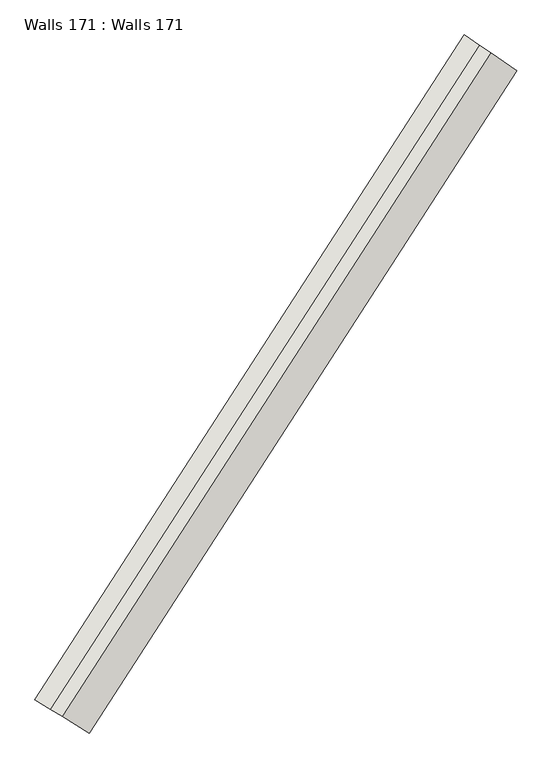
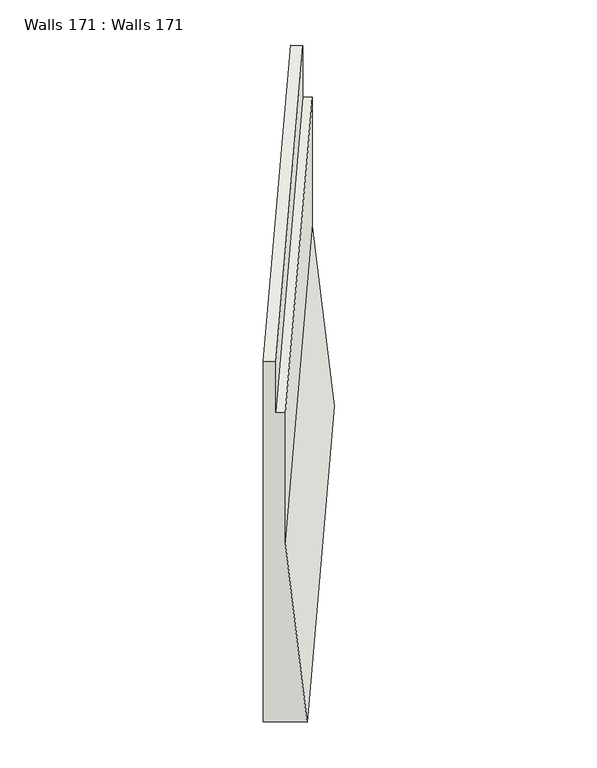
"""IFC4 building model written with IfcOpenShell, lengths in millimetres: wall geometry, Walls 171 : Walls 171."""

from ifc_helpers import new_model, si_unit, frame, origin, place, context, project, spatial, source, transform, mapped, element, save
from ifc_brep_helpers import plane_surface, spline_curve, spline_surface, advanced_brep


def walls_171_walls_171_41cf312e(model_context):
    return source(origin(), model_context, "Body", "AdvancedBrep", [
        advanced_brep(
        [(212384.317628, 110743.2238994, 642700.0), (212085.7919016, 110925.932385, 646200.0), (212085.7919016, 110925.932385, 648740.0), (211957.8523046, 111004.2360216, 648740.0), (211957.8523046, 111004.2360216, 649740.0), (211787.2661753, 111108.6408705, 649740.0), (211787.2661753, 111108.6408705, 642700.0), (217085.1020384, 118022.6779378, 642810.0), (216506.4027836, 118416.5144171, 642810.0), (216506.4027836, 118416.5144171, 649820.0), (216671.7454278, 118303.9897088, 649820.0), (216671.7454278, 118303.9897088, 648820.0), (216795.752411, 118219.5961775, 648820.0), (216795.752411, 118219.5961775, 646310.0)],
        [
            (0, 1),
            (1, 2),
            (2, 3),
            (3, 4),
            (4, 5),
            (5, 6),
            (6, 0),
            (7, 8),
            (8, 9),
            (9, 10),
            (10, 11),
            (11, 12),
            (12, 13),
            (13, 7),
            (11, 3, spline_curve(3, [(216671.7454278, 118303.9897088, 648820.0), (215041.950054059, 115909.185221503, 648793.333333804), (213470.040535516, 113474.986564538, 648766.666666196), (211957.8523046, 111004.2360216, 648740.0)], [4, 4], [0.0, 28.500563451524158])),
            (2, 12, spline_curve(3, [(212085.7919016, 110925.932385, 648740.0), (213596.718574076, 113394.621678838, 648766.666666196), (215167.31671079, 115826.789580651, 648793.333333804), (216795.752411, 118219.5961775, 648820.0)], [4, 4], [0.0, 28.500563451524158])),
            (9, 5, spline_curve(3, [(216506.4027836, 118416.5144171, 649820.0), (214874.794512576, 116019.046076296, 649793.333333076), (213301.136483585, 113582.139745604, 649766.666666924), (211787.2661753, 111108.6408705, 649740.0)], [4, 4], [0.0, 28.528312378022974])),
            (4, 10, spline_curve(3, [(211957.8523046, 111004.2360216, 649740.0), (213470.040535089, 113474.986564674, 649766.666666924), (215041.950054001, 115909.185221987, 649793.333333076), (216671.7454278, 118303.9897088, 649820.0)], [4, 4], [0.0, 28.528312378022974])),
            (8, 6, spline_curve(3, [(216506.4027836, 118416.5144171, 642810.0), (214874.794511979, 116019.046076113, 642773.333333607), (213301.136484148, 113582.139745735, 642736.666666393), (211787.2661753, 111108.6408705, 642700.0)], [4, 4], [0.0, 28.54466384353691])),
            (7, 0, spline_curve(3, [(217085.1020384, 118022.6779378, 642810.0), (215459.838910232, 115634.533085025, 642773.333333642), (213892.300663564, 113207.103612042, 642736.666666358), (212384.317628, 110743.2238994, 642700.0)], [4, 4], [0.0, 28.48974785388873])),
            (13, 1, spline_curve(3, [(216795.752411, 118219.5961775, 646310.0), (215167.316711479, 115826.789580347, 646273.333333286), (213596.718573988, 113394.62167874, 646236.666666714), (212085.7919016, 110925.932385, 646200.0)], [4, 4], [0.0, 28.461999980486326])),
        ],
        [
            plane_surface(frame((212006.5911987, 110974.4060648, 646937.1428571), z_axis=(-0.5220242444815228, -0.8529306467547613, 0.0), x_axis=(0.0, 0.0, 1.0))),
            plane_surface(frame((216718.9861833, 118271.8397921, 647030.0), z_axis=(0.562623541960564, 0.8267132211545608, 0.0), x_axis=(-0.08226104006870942, 0.05598313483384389, 0.995037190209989))),
            spline_surface(3, 3, [[(216795.752411, 118219.5961775, 648820.0), (215167.316711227, 115826.789580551, 648793.333333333), (213596.71857363, 113394.621679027, 648766.666666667), (212085.7919016, 110925.932385, 648740.0)], [(216754.416749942, 118247.727354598, 648820.0), (215125.52782565, 115854.254794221, 648793.333333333), (213554.492560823, 113421.409974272, 648766.666666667), (212043.145369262, 110952.033597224, 648740.0)], [(216713.081088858, 118275.858531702, 648820.0), (215083.738940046, 115881.720007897, 648793.333333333), (213512.266548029, 113448.198269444, 648766.666666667), (212000.498836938, 110978.134809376, 648740.0)], [(216671.7454278, 118303.9897088, 648820.0), (215041.950054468, 115909.185221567, 648793.333333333), (213470.040535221, 113474.986564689, 648766.666666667), (211957.8523046, 111004.2360216, 648740.0)]], [4, 4], [4, 4], [0.0, 0.49212597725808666], [0.0, 28.500563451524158]),
            spline_surface(3, 3, [[(216671.7454278, 118303.9897088, 649820.0), (215041.950054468, 115909.185221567, 649793.333333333), (213470.040535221, 113474.986564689, 649766.666666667), (211957.8523046, 111004.2360216, 649740.0)], [(216616.631213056, 118341.497944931, 649820.0), (214986.231540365, 115945.80550646, 649793.333333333), (213413.739184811, 113510.704291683, 649766.666666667), (211900.990261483, 111039.037637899, 649740.0)], [(216561.516998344, 118379.006180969, 649820.0), (214930.513026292, 115982.425791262, 649793.333333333), (213357.437834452, 113546.422018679, 649766.666666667), (211844.128218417, 111073.839254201, 649740.0)], [(216506.4027836, 118416.5144171, 649820.0), (214874.794512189, 116019.046076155, 649793.333333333), (213301.136484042, 113582.139745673, 649766.666666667), (211787.2661753, 111108.6408705, 649740.0)]], [4, 4], [4, 4], [0.0, 0.6561679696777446], [0.0, 28.528312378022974]),
            spline_surface(3, 3, [[(216506.4027836, 118416.5144171, 649820.0), (214874.794512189, 116019.046076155, 649793.333333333), (213301.136484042, 113582.139745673, 649766.666666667), (211787.2661753, 111108.6408705, 649740.0)], [(216506.4027836, 118416.5144171, 647483.333333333), (214874.794512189, 116019.046076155, 647453.333333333), (213301.136484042, 113582.139745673, 647423.333333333), (211787.2661753, 111108.6408705, 647393.333333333)], [(216506.4027836, 118416.5144171, 645146.666666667), (214874.794512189, 116019.046076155, 645113.333333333), (213301.136484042, 113582.139745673, 645080.0), (211787.2661753, 111108.6408705, 645046.666666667)], [(216506.4027836, 118416.5144171, 642810.0), (214874.794512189, 116019.046076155, 642773.333333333), (213301.136484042, 113582.139745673, 642736.666666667), (211787.2661753, 111108.6408705, 642700.0)]], [4, 4], [4, 4], [0.0, 23.047900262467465], [0.0, 28.54466384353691]),
            spline_surface(3, 3, [[(216506.4027836, 118416.5144171, 642810.0), (214874.794512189, 116019.046076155, 642773.333333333), (213301.136484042, 113582.139745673, 642736.666666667), (211787.2661753, 111108.6408705, 642700.0)], [(216699.302535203, 118285.235590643, 642810.0), (215069.809311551, 115890.875079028, 642773.333333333), (213498.191210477, 113457.127701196, 642736.666666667), (211986.283326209, 110986.835213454, 642700.0)], [(216892.202286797, 118153.956764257, 642810.0), (215264.824110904, 115762.704081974, 642773.333333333), (213695.245936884, 113332.115656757, 642736.666666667), (212185.300477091, 110865.029556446, 642700.0)], [(217085.1020384, 118022.6779378, 642810.0), (215459.838910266, 115634.533084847, 642773.333333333), (213892.300663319, 113207.103612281, 642736.666666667), (212384.317628, 110743.2238994, 642700.0)]], [4, 4], [4, 4], [0.0, 2.2965878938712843], [0.0, 28.48974785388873]),
            spline_surface(3, 3, [[(217085.1020384, 118022.6779378, 642810.0), (215459.838910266, 115634.533084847, 642773.333333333), (213892.300663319, 113207.103612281, 642736.666666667), (212384.317628, 110743.2238994, 642700.0)], [(216988.652162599, 118088.317351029, 643976.666666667), (215362.331510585, 115698.618583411, 643940.0), (213793.773300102, 113269.609634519, 643903.333333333), (212284.809052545, 110804.126727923, 643866.666666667)], [(216892.202286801, 118153.956764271, 645143.333333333), (215264.824110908, 115762.704081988, 645106.666666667), (213695.245936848, 113332.115656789, 645070.0), (212185.300477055, 110865.029556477, 645033.333333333)], [(216795.752411, 118219.5961775, 646310.0), (215167.316711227, 115826.789580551, 646273.333333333), (213596.71857363, 113394.621679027, 646236.666666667), (212085.7919016, 110925.932385, 646200.0)]], [4, 4], [4, 4], [0.0, 11.540211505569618], [0.0, 28.461999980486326]),
            spline_surface(3, 3, [[(216795.752411, 118219.5961775, 646310.0), (215167.316711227, 115826.789580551, 646273.333333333), (213596.71857363, 113394.621679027, 646236.666666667), (212085.7919016, 110925.932385, 646200.0)], [(216795.752411, 118219.5961775, 647146.666666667), (215167.316711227, 115826.789580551, 647113.333333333), (213596.71857363, 113394.621679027, 647080.0), (212085.7919016, 110925.932385, 647046.666666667)], [(216795.752411, 118219.5961775, 647983.333333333), (215167.316711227, 115826.789580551, 647953.333333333), (213596.71857363, 113394.621679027, 647923.333333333), (212085.7919016, 110925.932385, 647893.333333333)], [(216795.752411, 118219.5961775, 648820.0), (215167.316711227, 115826.789580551, 648793.333333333), (213596.71857363, 113394.621679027, 648766.666666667), (212085.7919016, 110925.932385, 648740.0)]], [4, 4], [4, 4], [0.0, 8.284120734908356], [0.0, 28.48916695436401]),
            spline_surface(3, 3, [[(216671.7454278, 118303.9897088, 648820.0), (215041.950054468, 115909.185221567, 648793.333333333), (213470.040535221, 113474.986564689, 648766.666666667), (211957.8523046, 111004.2360216, 648740.0)], [(216671.7454278, 118303.9897088, 649153.333333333), (215041.950054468, 115909.185221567, 649126.666666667), (213470.040535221, 113474.986564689, 649100.0), (211957.8523046, 111004.2360216, 649073.333333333)], [(216671.7454278, 118303.9897088, 649486.666666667), (215041.950054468, 115909.185221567, 649460.0), (213470.040535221, 113474.986564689, 649433.333333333), (211957.8523046, 111004.2360216, 649406.666666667)], [(216671.7454278, 118303.9897088, 649820.0), (215041.950054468, 115909.185221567, 649793.333333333), (213470.040535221, 113474.986564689, 649766.666666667), (211957.8523046, 111004.2360216, 649740.0)]], [4, 4], [4, 4], [0.0, 3.280839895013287], [0.0, 28.512455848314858]),
        ],
        [
            (0, [[1, 2, 3, 4, 5, 6, 7]]),
            (1, [[8, 9, 10, 11, 12, 13, 14]]),
            (2, [[-12, 15, -3, 16]]),
            (3, [[-10, 17, -5, 18]]),
            (4, [[-9, 19, -6, -17]]),
            (5, [[-8, 20, -7, -19]]),
            (6, [[-14, 21, -1, -20]]),
            (7, [[-13, -16, -2, -21]]),
            (8, [[-11, -18, -4, -15]]),
        ],
    ),
    ])


if __name__ == "__main__":
    model = new_model("IFC4")
    model_context = context("Model", 3, world=origin())
    ifc_project = project(units=[si_unit("LENGTHUNIT", "METRE", prefix="MILLI")], contexts=[model_context])
    site = spatial("IfcSite", under=ifc_project)
    building = spatial("IfcBuilding", under=site)
    placement = place(None, origin())
    walls_171_walls_171_shape = walls_171_walls_171_41cf312e(model_context)
    element("IfcWall", 1, ObjectType="Walls 171 : Walls 171", at=placement, inside=building, context=model_context, shape_type="MappedRepresentation", body=[
        mapped(walls_171_walls_171_shape, transform((0.0, 0.0, 0.0), x_axis=(1.0, 0.0, 0.0), y_axis=(0.0, 1.0, 0.0), z_axis=(0.0, 0.0, 1.0))),
    ])
    save(model, "model.ifc")
